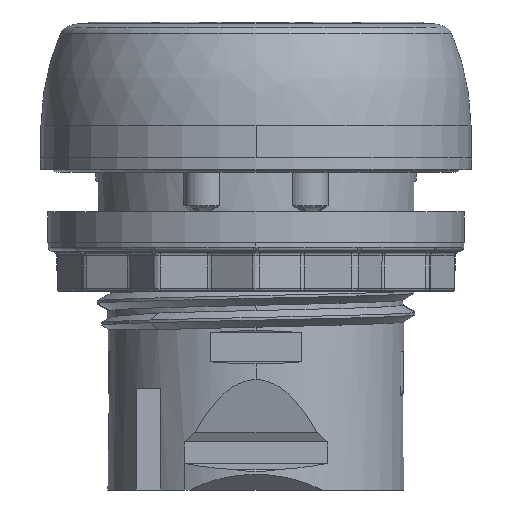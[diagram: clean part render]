
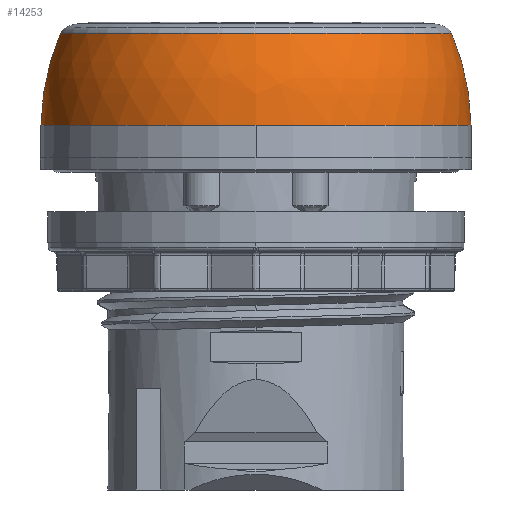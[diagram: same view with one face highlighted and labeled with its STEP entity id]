
A CAD part, front view. The second image highlights one B-rep face of the part: STEP entity #14253.
In plain terms, the highlighted free-form (B-spline) face has degree [3, 3] with [7, 4] control points.
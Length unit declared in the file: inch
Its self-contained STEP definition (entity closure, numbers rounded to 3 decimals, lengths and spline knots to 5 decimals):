
#3692=CARTESIAN_POINT('',(0.,0.,0.11948));
#3693=DIRECTION('',(0.,0.,-1.));
#3694=DIRECTION('',(1.,0.,0.));
#3695=AXIS2_PLACEMENT_3D('',#3692,#3693,#3694);
#3697=CARTESIAN_POINT('',(0.,0.,0.36849));
#3698=DIRECTION('',(0.,0.,-1.));
#3699=DIRECTION('',(1.,0.,0.));
#3700=AXIS2_PLACEMENT_3D('',#3697,#3698,#3699);
#3702=CARTESIAN_POINT('',(0.,0.,0.36849));
#3703=DIRECTION('',(0.,0.,-1.));
#3704=DIRECTION('',(-1.,0.,0.));
#3705=AXIS2_PLACEMENT_3D('',#3702,#3703,#3704);
#3727=CARTESIAN_POINT('',(0.08805,0.,0.1078));
#3728=DIRECTION('',(0.,-1.,0.));
#3729=DIRECTION('',(-0.921,0.,0.39));
#3730=AXIS2_PLACEMENT_3D('',#3727,#3728,#3729);
#3737=CARTESIAN_POINT('',(-0.08805,0.,0.1078));
#3738=DIRECTION('',(0.,-1.,0.));
#3739=DIRECTION('',(1.,0.,0.017));
#3740=AXIS2_PLACEMENT_3D('',#3737,#3738,#3739);
#3751=CARTESIAN_POINT('',(0.,0.,0.11948));
#3752=DIRECTION('',(0.,0.,1.));
#3753=DIRECTION('',(-1.,0.,0.));
#3754=AXIS2_PLACEMENT_3D('',#3751,#3752,#3753);
#6686=CARTESIAN_POINT('',(0.58114,0.,0.11948));
#6687=CARTESIAN_POINT('',(0.,-0.58114,0.11948));
#6688=VERTEX_POINT('',#6686);
#6689=VERTEX_POINT('',#6687);
#6690=CARTESIAN_POINT('',(-0.58114,0.,0.11948));
#6691=VERTEX_POINT('',#6690);
#6692=CARTESIAN_POINT('',(-0.52839,-0.00024,
0.36849));
#6693=CARTESIAN_POINT('',(-0.52839,0.,0.36849));
#6694=VERTEX_POINT('',#6692);
#6695=VERTEX_POINT('',#6693);
#6696=CARTESIAN_POINT('',(0.52839,0.,0.36849));
#6697=VERTEX_POINT('',#6696);
#14211=CARTESIAN_POINT('',(-0.58006,0.03649,
0.11436));
#14212=CARTESIAN_POINT('',(-0.57919,0.03644,
0.20372));
#14213=CARTESIAN_POINT('',(-0.5607,0.03528,
0.29115));
#14214=CARTESIAN_POINT('',(-0.52533,0.03305,
0.3732));
#14215=CARTESIAN_POINT('',(-0.60252,-0.32048,
0.11436));
#14216=CARTESIAN_POINT('',(-0.60162,-0.31999,
0.20372));
#14217=CARTESIAN_POINT('',(-0.58241,-0.30978,
0.29115));
#14218=CARTESIAN_POINT('',(-0.54567,-0.29024,
0.3732));
#14219=CARTESIAN_POINT('',(-0.35768,-0.58121,
0.11436));
#14220=CARTESIAN_POINT('',(-0.35714,-0.58034,
0.20372));
#14221=CARTESIAN_POINT('',(-0.34574,-0.56181,
0.29115));
#14222=CARTESIAN_POINT('',(-0.32393,-0.52637,
0.3732));
#14223=CARTESIAN_POINT('',(0.,-0.58121,0.11436));
#14224=CARTESIAN_POINT('',(0.,-0.58034,0.20372));
#14225=CARTESIAN_POINT('',(0.,-0.56181,0.29115));
#14226=CARTESIAN_POINT('',(0.,-0.52637,0.3732));
#14227=CARTESIAN_POINT('',(0.35768,-0.58121,
0.11436));
#14228=CARTESIAN_POINT('',(0.35714,-0.58034,
0.20372));
#14229=CARTESIAN_POINT('',(0.34574,-0.56181,
0.29115));
#14230=CARTESIAN_POINT('',(0.32393,-0.52637,
0.3732));
#14231=CARTESIAN_POINT('',(0.60252,-0.32048,
0.11436));
#14232=CARTESIAN_POINT('',(0.60162,-0.31999,
0.20372));
#14233=CARTESIAN_POINT('',(0.58241,-0.30978,
0.29115));
#14234=CARTESIAN_POINT('',(0.54567,-0.29024,
0.3732));
#14235=CARTESIAN_POINT('',(0.58006,0.03649,
0.11436));
#14236=CARTESIAN_POINT('',(0.57919,0.03644,
0.20372));
#14237=CARTESIAN_POINT('',(0.5607,0.03528,
0.29115));
#14238=CARTESIAN_POINT('',(0.52533,0.03305,
0.3732));
#14239=(BOUNDED_SURFACE()B_SPLINE_SURFACE(3,3,((#14211,#14212,#14213,#14214),(
#14215,#14216,#14217,#14218),(#14219,#14220,#14221,#14222),(#14223,#14224,
#14225,#14226),(#14227,#14228,#14229,#14230),(#14231,#14232,#14233,#14234),(
#14235,#14236,#14237,#14238)),.UNSPECIFIED.,.F.,.F.,.F.)B_SPLINE_SURFACE_WITH_KNOTS((4,3,4),(4,4),(0.,1.,2.),(0.,1.),.UNSPECIFIED.)GEOMETRIC_REPRESENTATION_ITEM()RATIONAL_B_SPLINE_SURFACE(((1.199,1.183,
1.183,1.199),(0.947,0.934,
0.934,0.947),(0.947,0.934,
0.934,0.947),(1.199,1.183,
1.183,1.199),(0.947,0.934,
0.934,0.947),(0.947,0.934,
0.934,0.947),(1.199,1.183,
1.183,1.199)))REPRESENTATION_ITEM('')SURFACE());
#14241=ORIENTED_EDGE('',*,*,#14240,.F.);
#14243=ORIENTED_EDGE('',*,*,#14242,.F.);
#14245=ORIENTED_EDGE('',*,*,#14244,.F.);
#14246=ORIENTED_EDGE('',*,*,#14194,.T.);
#14248=ORIENTED_EDGE('',*,*,#14247,.F.);
#14250=ORIENTED_EDGE('',*,*,#14249,.F.);
#14251=EDGE_LOOP('',(#14241,#14243,#14245,#14246,#14248,#14250));
#14252=FACE_OUTER_BOUND('',#14251,.F.);
#14253=ADVANCED_FACE('',(#14252),#14239,.T.);
#3696=CIRCLE('',#3695,0.58114);
#3701=CIRCLE('',#3700,0.52839);
#3706=CIRCLE('',#3705,0.52839);
#3731=CIRCLE('',#3730,0.66929);
#3741=CIRCLE('',#3740,0.66929);
#3755=CIRCLE('',#3754,0.58114);
#14194=EDGE_CURVE('',#6688,#6689,#3696,.T.);
#14240=EDGE_CURVE('',#6694,#6695,#3706,.T.);
#14242=EDGE_CURVE('',#6697,#6694,#3701,.T.);
#14244=EDGE_CURVE('',#6688,#6697,#3741,.T.);
#14247=EDGE_CURVE('',#6691,#6689,#3755,.T.);
#14249=EDGE_CURVE('',#6695,#6691,#3731,.T.);
